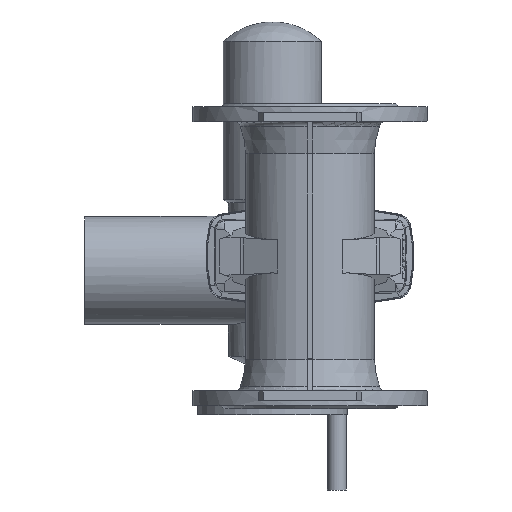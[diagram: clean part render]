
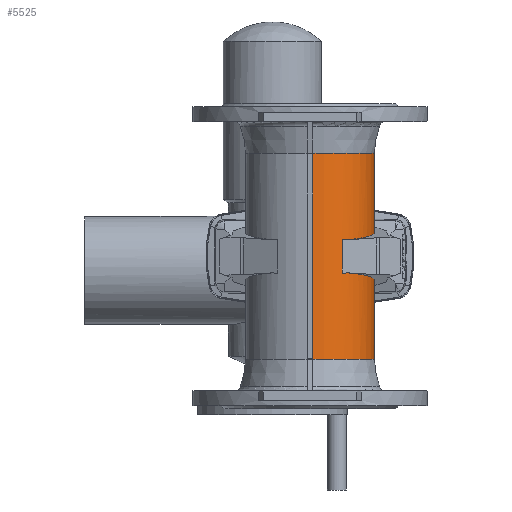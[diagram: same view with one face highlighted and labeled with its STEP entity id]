
A CAD part, front view. The second image highlights one B-rep face of the part: STEP entity #5525.
In plain terms, the highlighted cylindrical face has radius 68.5 mm (diameter 137 mm), a partial arc.
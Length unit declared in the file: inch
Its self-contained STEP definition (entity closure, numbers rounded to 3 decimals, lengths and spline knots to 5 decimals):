
#563 = DIRECTION ( 'NONE',  ( -1., 0., 0. ) ) ;
#567 = DIRECTION ( 'NONE',  ( 0., 0., -1. ) ) ;
#568 = CARTESIAN_POINT ( 'NONE',  ( 0., 0., 0. ) ) ;
#720 = CARTESIAN_POINT ( 'NONE',  ( 0.11811, -2.69426, 0. ) ) ;
#721 = CARTESIAN_POINT ( 'NONE',  ( 0., 0., -4.32215 ) ) ;
#722 = DIRECTION ( 'NONE',  ( 0., 0., -1. ) ) ;
#723 = DIRECTION ( 'NONE',  ( -1., 0., 0. ) ) ;
#724 = DIRECTION ( 'NONE',  ( 0., 0., -1. ) ) ;
#744 = DIRECTION ( 'NONE',  ( 0., 0., 1. ) ) ;
#745 = CARTESIAN_POINT ( 'NONE',  ( 1.34843, -2.33554, -6.39764 ) ) ;
#751 = CARTESIAN_POINT ( 'NONE',  ( 1.6104, -2.16324, 0.70024 ) ) ;
#756 = CARTESIAN_POINT ( 'NONE',  ( 0., 0., 4.32215 ) ) ;
#757 = DIRECTION ( 'NONE',  ( 0., 0., -1. ) ) ;
#758 = DIRECTION ( 'NONE',  ( -1., 0., 0. ) ) ;
#759 = CARTESIAN_POINT ( 'NONE',  ( 1.52647, -2.22572, 0.7017 ) ) ;
#763 = CARTESIAN_POINT ( 'NONE',  ( 1.43904, -2.28322, 0.70323 ) ) ;
#764 = CARTESIAN_POINT ( 'NONE',  ( 1.34843, -2.33554, 0.70481 ) ) ;
#788 = CARTESIAN_POINT ( 'NONE',  ( 1.6104, -2.16324, -0.70024 ) ) ;
#789 = CARTESIAN_POINT ( 'NONE',  ( 1.52647, -2.22572, -0.7017 ) ) ;
#795 = CARTESIAN_POINT ( 'NONE',  ( 0.11811, 2.69426, 0. ) ) ;
#796 = DIRECTION ( 'NONE',  ( 0., 0., 1. ) ) ;
#799 = CARTESIAN_POINT ( 'NONE',  ( 1.43904, -2.28322, -0.70323 ) ) ;
#800 = CARTESIAN_POINT ( 'NONE',  ( 1.34843, -2.33554, -0.70481 ) ) ;
#2616 = DIRECTION ( 'NONE',  ( 0., 0., -1. ) ) ;
#2618 = CARTESIAN_POINT ( 'NONE',  ( 0.11811, 2.69426, 0. ) ) ;
#2689 = CARTESIAN_POINT ( 'NONE',  ( 0.11811, 2.69426, -1.40922 ) ) ;
#2706 = CARTESIAN_POINT ( 'NONE',  ( 3.15713, 2.56104, -1.33693 ) ) ;
#2775 = CARTESIAN_POINT ( 'NONE',  ( 0.11811, 2.69426, 1.40922 ) ) ;
#2778 = CARTESIAN_POINT ( 'NONE',  ( 3.15713, 2.56104, 1.33693 ) ) ;
#2780 = CARTESIAN_POINT ( 'NONE',  ( 4.05045, -0.34677, -0.91252 ) ) ;
#2782 = CARTESIAN_POINT ( 'NONE',  ( 1.6104, -2.16324, -0.70024 ) ) ;
#2791 = CARTESIAN_POINT ( 'NONE',  ( 4.05045, -0.34677, 0.91252 ) ) ;
#2793 = CARTESIAN_POINT ( 'NONE',  ( 1.6104, -2.16324, 0.70024 ) ) ;
#3500 =( BOUNDED_CURVE ( )  B_SPLINE_CURVE ( 3, ( #751, #759, #763, #764 ),
 .UNSPECIFIED., .F., .F. ) 
 B_SPLINE_CURVE_WITH_KNOTS ( ( 4, 4 ),
 ( 4.07246, 4.18879 ),
 .UNSPECIFIED. ) 
 CURVE ( )  GEOMETRIC_REPRESENTATION_ITEM ( )  RATIONAL_B_SPLINE_CURVE ( ( 1., 0.999, 0.999, 1. ) ) 
 REPRESENTATION_ITEM ( '' )  );
#3603 = CARTESIAN_POINT ( 'NONE',  ( 0.11811, -2.69426, -4.32215 ) ) ;
#3612 = CARTESIAN_POINT ( 'NONE',  ( 0.11811, 2.69426, 1.40922 ) ) ;
#3632 = CARTESIAN_POINT ( 'NONE',  ( 1.6104, -2.16324, 0.70024 ) ) ;
#3640 = CARTESIAN_POINT ( 'NONE',  ( 1.6104, -2.16324, -0.70024 ) ) ;
#3678 = CARTESIAN_POINT ( 'NONE',  ( 0.11811, 2.69426, -1.40922 ) ) ;
#3813 =( BOUNDED_CURVE ( )  B_SPLINE_CURVE ( 3, ( #2689, #2706, #2780, #2782 ),
 .UNSPECIFIED., .F., .F. ) 
 B_SPLINE_CURVE_WITH_KNOTS ( ( 4, 4 ),
 ( 0.16858, 2.62643 ),
 .UNSPECIFIED. ) 
 CURVE ( )  GEOMETRIC_REPRESENTATION_ITEM ( )  RATIONAL_B_SPLINE_CURVE ( ( 1., 0.557, 0.557, 1. ) ) 
 REPRESENTATION_ITEM ( '' )  );
#3816 =( BOUNDED_CURVE ( )  B_SPLINE_CURVE ( 3, ( #2775, #2778, #2791, #2793 ),
 .UNSPECIFIED., .F., .T. ) 
 B_SPLINE_CURVE_WITH_KNOTS ( ( 4, 4 ),
 ( 0.16858, 2.62643 ),
 .UNSPECIFIED. ) 
 CURVE ( )  GEOMETRIC_REPRESENTATION_ITEM ( )  RATIONAL_B_SPLINE_CURVE ( ( 1., 0.557, 0.557, 1. ) ) 
 REPRESENTATION_ITEM ( '' )  );
#3941 =( BOUNDED_CURVE ( )  B_SPLINE_CURVE ( 3, ( #788, #789, #799, #800 ),
 .UNSPECIFIED., .F., .F. ) 
 B_SPLINE_CURVE_WITH_KNOTS ( ( 4, 4 ),
 ( 4.07246, 4.18879 ),
 .UNSPECIFIED. ) 
 CURVE ( )  GEOMETRIC_REPRESENTATION_ITEM ( )  RATIONAL_B_SPLINE_CURVE ( ( 1., 0.999, 0.999, 1. ) ) 
 REPRESENTATION_ITEM ( '' )  );
#4478 = CARTESIAN_POINT ( 'NONE',  ( 0.11811, 2.69426, -4.32215 ) ) ;
#4532 = CARTESIAN_POINT ( 'NONE',  ( 0.11811, -2.69426, 4.32215 ) ) ;
#4576 = CARTESIAN_POINT ( 'NONE',  ( 0.11811, 2.69426, 4.32215 ) ) ;
#4579 = CARTESIAN_POINT ( 'NONE',  ( 1.34843, -2.33554, -0.70481 ) ) ;
#4583 = CARTESIAN_POINT ( 'NONE',  ( 1.34843, -2.33554, 0.70481 ) ) ;
#4869 = EDGE_LOOP ( 'NONE', ( #7205, #7204, #7203, #7210, #7202, #7190, #7189, #7176, #7160, #7587 ) ) ;
#5525 = ADVANCED_FACE ( 'NONE', ( #6275 ), #6281, .T. ) ;
#5762 = AXIS2_PLACEMENT_3D ( 'NONE', #568, #567, #563 ) ;
#5922 = AXIS2_PLACEMENT_3D ( 'NONE', #721, #722, #723 ) ;
#5926 = AXIS2_PLACEMENT_3D ( 'NONE', #756, #757, #758 ) ;
#6275 = FACE_OUTER_BOUND ( 'NONE', #4869, .T. ) ;
#6281 = CYLINDRICAL_SURFACE ( 'NONE', #5762, 2.69685 ) ;
#6683 = LINE ( 'NONE', #2618, #6685 ) ;
#6685 = VECTOR ( 'NONE', #2616, 39.37008 ) ;
#6692 = CIRCLE ( 'NONE', #5922, 2.69685 ) ;
#6693 = LINE ( 'NONE', #720, #6697 ) ;
#6697 = VECTOR ( 'NONE', #724, 39.37008 ) ;
#6705 = LINE ( 'NONE', #745, #6709 ) ;
#6708 = CIRCLE ( 'NONE', #5926, 2.69685 ) ;
#6709 = VECTOR ( 'NONE', #744, 39.37008 ) ;
#6723 = LINE ( 'NONE', #795, #6724 ) ;
#6724 = VECTOR ( 'NONE', #796, 39.37008 ) ;
#6737 = VERTEX_POINT ( 'NONE', #4478 ) ;
#6794 = VERTEX_POINT ( 'NONE', #4532 ) ;
#6838 = VERTEX_POINT ( 'NONE', #4576 ) ;
#6841 = VERTEX_POINT ( 'NONE', #4579 ) ;
#6845 = VERTEX_POINT ( 'NONE', #4583 ) ;
#6965 = VERTEX_POINT ( 'NONE', #3603 ) ;
#6973 = VERTEX_POINT ( 'NONE', #3612 ) ;
#6991 = VERTEX_POINT ( 'NONE', #3632 ) ;
#6998 = VERTEX_POINT ( 'NONE', #3640 ) ;
#7027 = VERTEX_POINT ( 'NONE', #3678 ) ;
#7160 = ORIENTED_EDGE ( 'NONE', *, *, #8056, .T. ) ;
#7176 = ORIENTED_EDGE ( 'NONE', *, *, #8050, .F. ) ;
#7189 = ORIENTED_EDGE ( 'NONE', *, *, #8059, .F. ) ;
#7190 = ORIENTED_EDGE ( 'NONE', *, *, #8060, .T. ) ;
#7202 = ORIENTED_EDGE ( 'NONE', *, *, #8071, .T. ) ;
#7203 = ORIENTED_EDGE ( 'NONE', *, *, #8057, .F. ) ;
#7204 = ORIENTED_EDGE ( 'NONE', *, *, #8073, .F. ) ;
#7205 = ORIENTED_EDGE ( 'NONE', *, *, #8070, .T. ) ;
#7210 = ORIENTED_EDGE ( 'NONE', *, *, #8083, .T. ) ;
#7587 = ORIENTED_EDGE ( 'NONE', *, *, #8084, .T. ) ;
#8050 = EDGE_CURVE ( 'NONE', #7027, #6737, #6683, .T. ) ;
#8056 = EDGE_CURVE ( 'NONE', #7027, #6998, #3813, .T. ) ;
#8057 = EDGE_CURVE ( 'NONE', #6973, #6991, #3816, .T. ) ;
#8059 = EDGE_CURVE ( 'NONE', #6737, #6965, #6692, .T. ) ;
#8060 = EDGE_CURVE ( 'NONE', #6794, #6965, #6693, .T. ) ;
#8070 = EDGE_CURVE ( 'NONE', #6841, #6845, #6705, .T. ) ;
#8071 = EDGE_CURVE ( 'NONE', #6838, #6794, #6708, .T. ) ;
#8073 = EDGE_CURVE ( 'NONE', #6991, #6845, #3500, .T. ) ;
#8083 = EDGE_CURVE ( 'NONE', #6973, #6838, #6723, .T. ) ;
#8084 = EDGE_CURVE ( 'NONE', #6998, #6841, #3941, .T. ) ;
